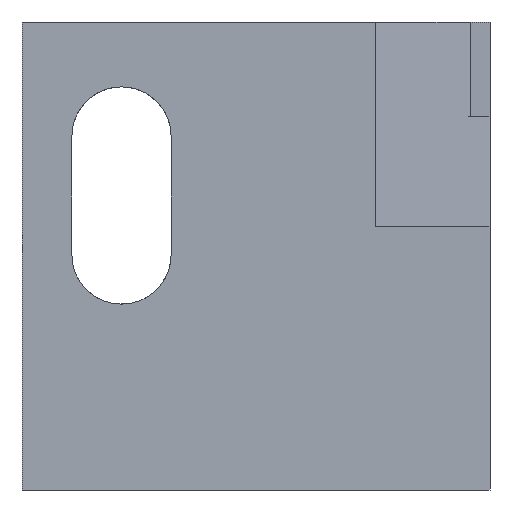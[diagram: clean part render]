
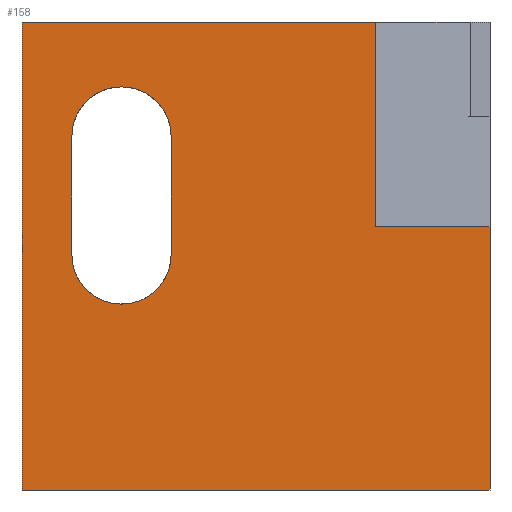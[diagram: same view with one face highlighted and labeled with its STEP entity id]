
A CAD part, front view. The second image highlights one B-rep face of the part: STEP entity #158.
In plain terms, the highlighted planar face has unit normal (0, -1, 0).
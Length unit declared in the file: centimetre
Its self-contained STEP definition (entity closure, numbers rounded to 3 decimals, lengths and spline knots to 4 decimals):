
#8 = ORIENTED_EDGE ( 'NONE', *, *, #445, .T. ) ;
#21 = LINE ( 'NONE', #1085, #1140 ) ;
#51 = CARTESIAN_POINT ( 'NONE',  ( 106.4561, 0., 503.2591 ) ) ;
#53 = VECTOR ( 'NONE', #265, 100. ) ;
#67 = VERTEX_POINT ( 'NONE', #865 ) ;
#89 = ORIENTED_EDGE ( 'NONE', *, *, #1591, .T. ) ;
#100 = CARTESIAN_POINT ( 'NONE',  ( 755.461, 0., 1000. ) ) ;
#158 = ADVANCED_FACE ( 'NONE', ( #1410, #1531 ), #606, .F. ) ;
#173 = CARTESIAN_POINT ( 'NONE',  ( 755.461, 0., 562.4887 ) ) ;
#185 = DIRECTION ( 'NONE',  ( 0., 0., -1. ) ) ;
#200 = DIRECTION ( 'NONE',  ( 0., 1., 0. ) ) ;
#207 = CARTESIAN_POINT ( 'NONE',  ( 0., 0., 1000. ) ) ;
#235 = VERTEX_POINT ( 'NONE', #1653 ) ;
#240 = ORIENTED_EDGE ( 'NONE', *, *, #583, .F. ) ;
#247 = VERTEX_POINT ( 'NONE', #486 ) ;
#253 = ORIENTED_EDGE ( 'NONE', *, *, #564, .T. ) ;
#264 = VERTEX_POINT ( 'NONE', #353 ) ;
#265 = DIRECTION ( 'NONE',  ( 0., 0., 1. ) ) ;
#272 = ORIENTED_EDGE ( 'NONE', *, *, #313, .T. ) ;
#301 = DIRECTION ( 'NONE',  ( 0., 0., -1. ) ) ;
#313 = EDGE_CURVE ( 'NONE', #1428, #769, #1193, .T. ) ;
#316 = LINE ( 'NONE', #51, #320 ) ;
#320 = VECTOR ( 'NONE', #847, 100. ) ;
#339 = DIRECTION ( 'NONE',  ( 1., 0., 0. ) ) ;
#353 = CARTESIAN_POINT ( 'NONE',  ( 212.5969, 0., 861.4711 ) ) ;
#374 = ORIENTED_EDGE ( 'NONE', *, *, #874, .F. ) ;
#385 = EDGE_CURVE ( 'NONE', #67, #235, #866, .T. ) ;
#445 = EDGE_CURVE ( 'NONE', #833, #67, #21, .T. ) ;
#449 = AXIS2_PLACEMENT_3D ( 'NONE', #936, #1072, #1603 ) ;
#458 = DIRECTION ( 'NONE',  ( 0., 0., -1. ) ) ;
#463 = VECTOR ( 'NONE', #185, 100. ) ;
#486 = CARTESIAN_POINT ( 'NONE',  ( 1000., 0., 0. ) ) ;
#552 = DIRECTION ( 'NONE',  ( 0., 1., 0. ) ) ;
#564 = EDGE_CURVE ( 'NONE', #1517, #247, #1353, .T. ) ;
#568 = CARTESIAN_POINT ( 'NONE',  ( 755.461, 0., 562.4887 ) ) ;
#583 = EDGE_CURVE ( 'NONE', #1234, #769, #1009, .T. ) ;
#591 = DIRECTION ( 'NONE',  ( 0., 0., 1. ) ) ;
#603 = CARTESIAN_POINT ( 'NONE',  ( 106.4561, 0., 755.3304 ) ) ;
#606 = PLANE ( 'NONE',  #1309 ) ;
#610 = EDGE_CURVE ( 'NONE', #264, #833, #1202, .T. ) ;
#635 = VERTEX_POINT ( 'NONE', #603 ) ;
#669 = CARTESIAN_POINT ( 'NONE',  ( 0., 0., 1000. ) ) ;
#679 = CARTESIAN_POINT ( 'NONE',  ( 318.7376, 0., 755.3304 ) ) ;
#711 = DIRECTION ( 'NONE',  ( 1., 0., 0. ) ) ;
#713 = CIRCLE ( 'NONE', #1676, 106.1407 ) ;
#717 = CARTESIAN_POINT ( 'NONE',  ( 0., 0., 1000. ) ) ;
#730 = VECTOR ( 'NONE', #458, 100. ) ;
#769 = VERTEX_POINT ( 'NONE', #100 ) ;
#776 = ORIENTED_EDGE ( 'NONE', *, *, #1502, .T. ) ;
#789 = CARTESIAN_POINT ( 'NONE',  ( 755.461, 0., 562.4887 ) ) ;
#811 = CARTESIAN_POINT ( 'NONE',  ( 0., 0., 0. ) ) ;
#833 = VERTEX_POINT ( 'NONE', #679 ) ;
#839 = EDGE_LOOP ( 'NONE', ( #8, #1217, #905, #776, #1198 ) ) ;
#847 = DIRECTION ( 'NONE',  ( 0., 0., 1. ) ) ;
#865 = CARTESIAN_POINT ( 'NONE',  ( 318.7376, 0., 503.2591 ) ) ;
#866 = CIRCLE ( 'NONE', #449, 106.1407 ) ;
#874 = EDGE_CURVE ( 'NONE', #1023, #247, #1070, .T. ) ;
#898 = AXIS2_PLACEMENT_3D ( 'NONE', #1133, #1391, #1528 ) ;
#905 = ORIENTED_EDGE ( 'NONE', *, *, #1267, .T. ) ;
#936 = CARTESIAN_POINT ( 'NONE',  ( 212.5969, 0., 503.2591 ) ) ;
#983 = LINE ( 'NONE', #717, #463 ) ;
#1009 = LINE ( 'NONE', #207, #1555 ) ;
#1023 = VERTEX_POINT ( 'NONE', #1236 ) ;
#1070 = LINE ( 'NONE', #1642, #730 ) ;
#1072 = DIRECTION ( 'NONE',  ( 0., 1., 0. ) ) ;
#1085 = CARTESIAN_POINT ( 'NONE',  ( 318.7376, 0., 755.3304 ) ) ;
#1133 = CARTESIAN_POINT ( 'NONE',  ( 212.5969, 0., 755.3304 ) ) ;
#1140 = VECTOR ( 'NONE', #301, 100. ) ;
#1193 = LINE ( 'NONE', #789, #53 ) ;
#1198 = ORIENTED_EDGE ( 'NONE', *, *, #610, .T. ) ;
#1202 = CIRCLE ( 'NONE', #898, 106.1407 ) ;
#1217 = ORIENTED_EDGE ( 'NONE', *, *, #385, .T. ) ;
#1225 = ORIENTED_EDGE ( 'NONE', *, *, #1521, .F. ) ;
#1234 = VERTEX_POINT ( 'NONE', #669 ) ;
#1236 = CARTESIAN_POINT ( 'NONE',  ( 1000., 0., 562.4887 ) ) ;
#1267 = EDGE_CURVE ( 'NONE', #235, #635, #316, .T. ) ;
#1309 = AXIS2_PLACEMENT_3D ( 'NONE', #1394, #200, #591 ) ;
#1322 = EDGE_LOOP ( 'NONE', ( #1225, #272, #240, #89, #253, #374 ) ) ;
#1353 = LINE ( 'NONE', #1482, #1364 ) ;
#1364 = VECTOR ( 'NONE', #711, 100. ) ;
#1365 = DIRECTION ( 'NONE',  ( 1., 0., 0. ) ) ;
#1391 = DIRECTION ( 'NONE',  ( 0., 1., 0. ) ) ;
#1394 = CARTESIAN_POINT ( 'NONE',  ( 0., 0., 1000. ) ) ;
#1410 = FACE_BOUND ( 'NONE', #839, .T. ) ;
#1428 = VERTEX_POINT ( 'NONE', #173 ) ;
#1482 = CARTESIAN_POINT ( 'NONE',  ( 0., 0., 0. ) ) ;
#1494 = LINE ( 'NONE', #568, #1597 ) ;
#1502 = EDGE_CURVE ( 'NONE', #635, #264, #713, .T. ) ;
#1517 = VERTEX_POINT ( 'NONE', #811 ) ;
#1521 = EDGE_CURVE ( 'NONE', #1428, #1023, #1494, .T. ) ;
#1528 = DIRECTION ( 'NONE',  ( 0., 0., 1. ) ) ;
#1531 = FACE_OUTER_BOUND ( 'NONE', #1322, .T. ) ;
#1555 = VECTOR ( 'NONE', #339, 100. ) ;
#1591 = EDGE_CURVE ( 'NONE', #1234, #1517, #983, .T. ) ;
#1597 = VECTOR ( 'NONE', #1365, 100. ) ;
#1603 = DIRECTION ( 'NONE',  ( 0., 0., 1. ) ) ;
#1616 = CARTESIAN_POINT ( 'NONE',  ( 212.5969, 0., 755.3304 ) ) ;
#1623 = DIRECTION ( 'NONE',  ( 0., 0., 1. ) ) ;
#1642 = CARTESIAN_POINT ( 'NONE',  ( 1000., 0., 1000. ) ) ;
#1653 = CARTESIAN_POINT ( 'NONE',  ( 106.4561, 0., 503.2591 ) ) ;
#1676 = AXIS2_PLACEMENT_3D ( 'NONE', #1616, #552, #1623 ) ;
